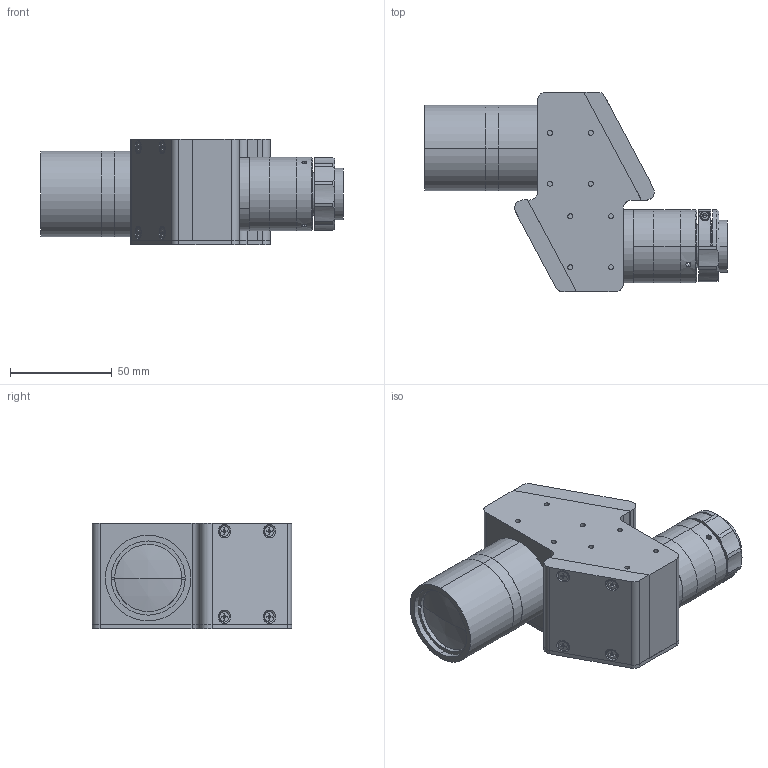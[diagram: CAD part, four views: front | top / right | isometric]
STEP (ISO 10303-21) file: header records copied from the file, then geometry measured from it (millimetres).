
FILE_DESCRIPTION (( 'STEP AP203' ), '1' );
FILE_NAME ('XF-MH06X306.STEP', '2020-08-24T07:15:31', ( 'canrill-02' ), ( '' ), 'SwSTEP 2.0', 'SolidWorks 2014', '' );
FILE_SCHEMA (( 'CONFIG_CONTROL_DESIGN' ));
Length unit declared in the file: millimetre
Products named in the file (1): XF-MH06X306
Bounding box: 148.38 x 98 x 52 mm (x, y, z)
Surface area: 43792.5 mm2 (no closed solid volume)
Topology: 0 solids, 31 shells, 420 faces, 1323 edges, 899 vertices
Faces by surface type: plane 220, cylinder 157, cone 39, sphere 2, torus 2
Entity records: 14946 total; most frequent: CARTESIAN_POINT 2962, DIRECTION 2596, ORIENTED_EDGE 2207, EDGE_CURVE 1321, VERTEX_POINT 899, AXIS2_PLACEMENT_3D 877, LINE 842, VECTOR 842
